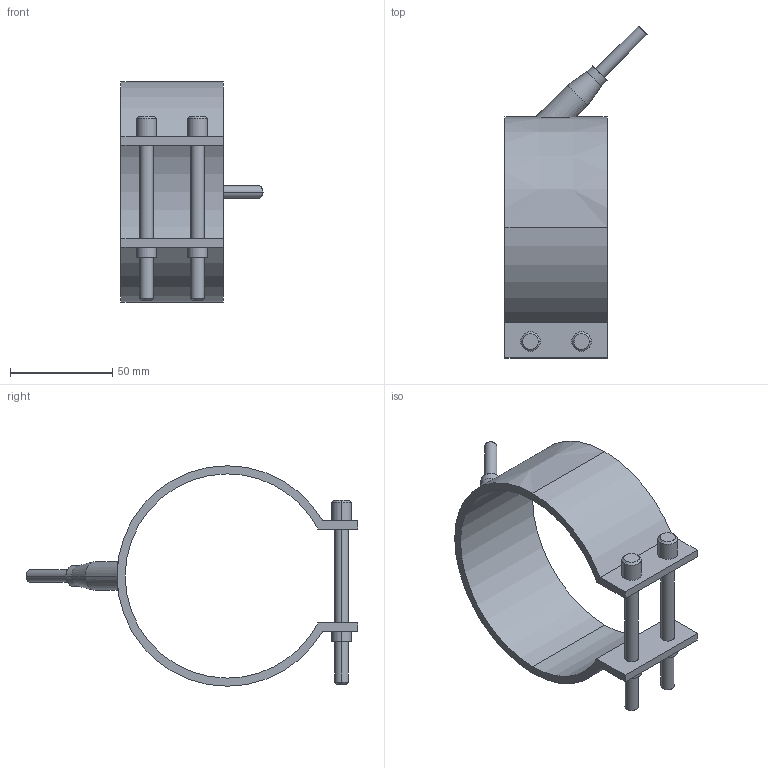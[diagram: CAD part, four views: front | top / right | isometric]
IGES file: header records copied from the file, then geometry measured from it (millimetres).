
Start section: START RECORD GO HERE.
Global section: file name: 29100050.igs; native system: DASSAULT SYSTEMES CATIA V5 R20 - www.3ds.com; preprocessor: CATIA Version 5 Release 20 ; author: Utente; organization: NB04-ASUS; date: 20210329.151841; units: millimetre
Bounding box: 69.55 x 162.55 x 108 mm (x, y, z)
Surface area: 39183 mm2 (no closed solid volume)
Topology: 0 solids, 0 shells, 54 faces, 242 edges, 242 vertices
Faces by surface type: revolution 38, plane 16
